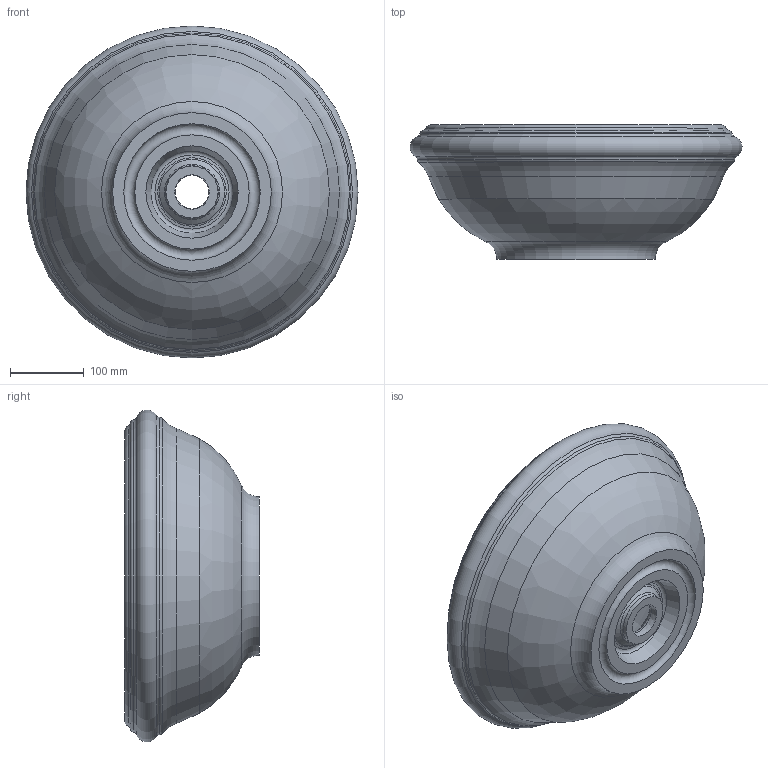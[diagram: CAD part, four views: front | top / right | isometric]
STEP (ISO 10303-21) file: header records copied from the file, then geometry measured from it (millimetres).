
FILE_DESCRIPTION (( 'STEP AP214' ), '1' );
FILE_NAME ('JUB50_APP.STEP', '2017-12-12T06:28:47', ( '' ), ( '' ), 'SwSTEP 2.0', 'SolidWorks 2018', '' );
FILE_SCHEMA (( 'AUTOMOTIVE_DESIGN' ));
Length unit declared in the file: millimetre
Products named in the file (1): JUB50_APP
Bounding box: 449.97 x 182.5 x 449.97 mm (x, y, z)
Volume: 7686651.3 mm3; surface area: 529641.2 mm2
Topology: 1 solids, 1 shells, 34 faces, 73 edges, 42 vertices
Faces by surface type: torus 26, cone 5, plane 3
Entity records: 722 total; most frequent: DIRECTION 138, CARTESIAN_POINT 103, AXIS2_PLACEMENT_3D 69, EDGE_LOOP 68, ORIENTED_EDGE 68, FACE_OUTER_BOUND 60, ADVANCED_FACE 34, EDGE_CURVE 34
